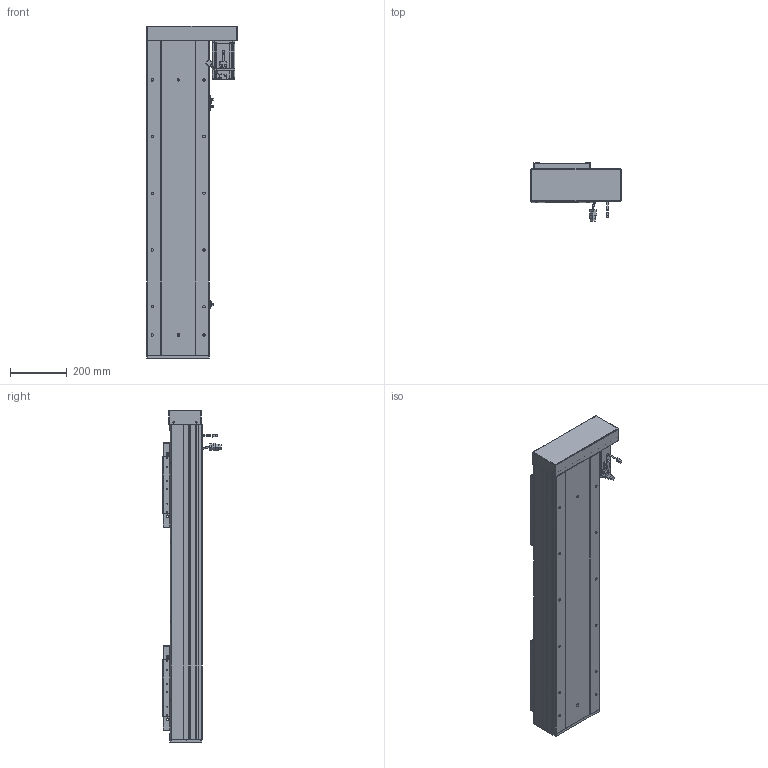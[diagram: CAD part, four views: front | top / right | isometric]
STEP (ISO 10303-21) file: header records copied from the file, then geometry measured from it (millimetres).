
FILE_DESCRIPTION (( 'STEP AP203' ), '1' );
FILE_NAME ('RY220F-L2525-300-RK.SLDASM_700.step', '2022-07-04T01:35:05', ( '' ), ( '' ), 'SwSTEP 2.0', 'SolidWorks 2016', '' );
FILE_SCHEMA (( 'CONFIG_CONTROL_DESIGN' ));
Length unit declared in the file: millimetre
Products named in the file (15): RY220F蛌殏菁釱-300_700; 怢湛750W_ECMA-CX0807ES; RY220F-672覜茼んえ; 侐源滅袉蝶; RY220酘衵殏萇儂欶; RY220F-L2525-300-RK.SLDASM_700; 覜茼ん672; RY220F-滅鳥奻裔; RY220F-蛌殏奻裔啣-300_700; RY220F綴裔啣; 滅袉蝶18-24; RY220F-祥凄詩湍-蛌殏-300_700; RY220左右折电机安装板; RY220F臏賑釱25-32佪裝; RY220F-詩湍揤踡輸
Assembly tree (24 placements, depth 2):
  RY220F-L2525-300-RK.SLDASM_700
    RY220F蛌殏菁釱-300_700
    RY220F-蛌殏奻裔啣-300_700  x2
    怢湛750W_ECMA-CX0807ES
    RY220F臏賑釱25-32佪裝  x2
    RY220F-滅鳥奻裔  x2
    滅袉蝶18-24  x3
    RY220F綴裔啣
    RY220F-祥凄詩湍-蛌殏-300_700
    RY220F-詩湍揤踡輸  x2
    覜茼ん672  x3
    RY220F-672覜茼んえ  x2
    RY220左右折电机安装板
    RY220酘衵殏萇儂欶
    侐源滅袉蝶  x2
Bounding box: 317.5 x 205.27 x 1171 mm (x, y, z)
Volume: 12471552.3 mm3; surface area: 3218451 mm2
Topology: 25 solids, 25 shells, 2684 faces, 7316 edges, 4550 vertices
Faces by surface type: cylinder 1202, plane 1044, cone 367, bspline 45, sphere 16, torus 10
Entity records: 66416 total; most frequent: CARTESIAN_POINT 18275, ORIENTED_EDGE 9758, DIRECTION 9396, EDGE_CURVE 4879, AXIS2_PLACEMENT_3D 3322, VERTEX_POINT 3166, LINE 2752, VECTOR 2752
